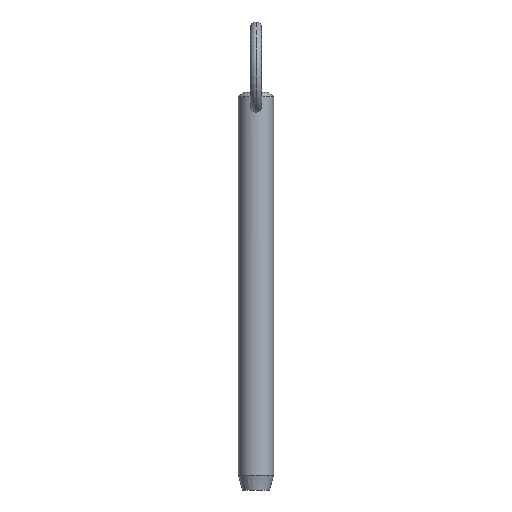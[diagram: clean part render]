
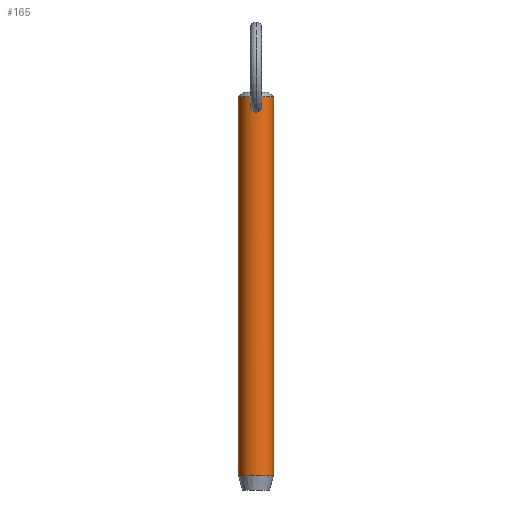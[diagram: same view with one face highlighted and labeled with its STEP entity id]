
A CAD part, front view. The second image highlights one B-rep face of the part: STEP entity #165.
In plain terms, the highlighted cylindrical face has radius 4.76 mm (diameter 9.52 mm), a partial arc.
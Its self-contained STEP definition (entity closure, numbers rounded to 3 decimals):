
#3 = CARTESIAN_POINT ( 'NONE',  ( -0.208, -4.757, 93.134 ) ) ;
#7 = CARTESIAN_POINT ( 'NONE',  ( 0.797, -4.697, 90.029 ) ) ;
#9 = DIRECTION ( 'NONE',  ( 0., 0., 1. ) ) ;
#11 = LINE ( 'NONE', #404, #274 ) ;
#18 = CARTESIAN_POINT ( 'NONE',  ( -4.76, 0., 93.95 ) ) ;
#24 = CARTESIAN_POINT ( 'NONE',  ( 0., 0., 93.95 ) ) ;
#32 = VERTEX_POINT ( 'NONE', #18 ) ;
#35 = CARTESIAN_POINT ( 'NONE',  ( 0.409, -4.743, 93.078 ) ) ;
#39 = CIRCLE ( 'NONE', #173, 4.76 ) ;
#40 = CARTESIAN_POINT ( 'NONE',  ( -1.247, -4.596, 90.452 ) ) ;
#43 = CARTESIAN_POINT ( 'NONE',  ( 0.97, -4.662, 90.15 ) ) ;
#44 = CARTESIAN_POINT ( 'NONE',  ( 1.478, -4.525, 91.652 ) ) ;
#47 = CARTESIAN_POINT ( 'NONE',  ( 1.385, -4.554, 90.732 ) ) ;
#69 = CARTESIAN_POINT ( 'NONE',  ( -1.039, -4.646, 90.226 ) ) ;
#70 = CARTESIAN_POINT ( 'NONE',  ( -0.793, -4.694, 90.039 ) ) ;
#73 = VECTOR ( 'NONE', #449, 1000. ) ;
#77 = CARTESIAN_POINT ( 'NONE',  ( 0.506, -4.734, 93.037 ) ) ;
#78 = CARTESIAN_POINT ( 'NONE',  ( -0.409, -4.743, 93.078 ) ) ;
#79 = CARTESIAN_POINT ( 'NONE',  ( 0., -4.76, 89.826 ) ) ;
#83 = CARTESIAN_POINT ( 'NONE',  ( 0.925, -4.67, 92.739 ) ) ;
#107 = CARTESIAN_POINT ( 'NONE',  ( -0.777, -4.7, 92.885 ) ) ;
#108 = CARTESIAN_POINT ( 'NONE',  ( -1.441, -4.537, 91.857 ) ) ;
#110 = B_SPLINE_CURVE_WITH_KNOTS ( 'NONE', 3,
 ( #279, #364, #200, #35, #77, #370, #115, #83, #295, #454, #451, #410, #249, #44, #124, #166, #337, #209, #289, #47, #341, #253, #414, #43, #7, #413, #374, #489, #218, #459 ),
 .UNSPECIFIED., .F., .F.,
 ( 4, 2, 2, 2, 2, 2, 2, 2, 2, 2, 2, 2, 2, 2, 4 ),
 ( 0.004, 0.005, 0.005, 0.005, 0.006, 0.006, 0.007, 0.007, 0.007, 0.007, 0.008, 0.008, 0.009, 0.009, 0.009 ),
 .UNSPECIFIED. ) ;
#115 = CARTESIAN_POINT ( 'NONE',  ( 0.77, -4.698, 92.875 ) ) ;
#116 = CARTESIAN_POINT ( 'NONE',  ( 0., -4.76, 93.148 ) ) ;
#117 = CIRCLE ( 'NONE', #512, 4.76 ) ;
#124 = CARTESIAN_POINT ( 'NONE',  ( 1.492, -4.52, 91.548 ) ) ;
#135 = VERTEX_POINT ( 'NONE', #350 ) ;
#154 = CARTESIAN_POINT ( 'NONE',  ( -0.416, -4.746, 89.867 ) ) ;
#159 = EDGE_CURVE ( 'NONE', #135, #372, #339, .T. ) ;
#161 = DIRECTION ( 'NONE',  ( 0., 0., -1. ) ) ;
#165 = ADVANCED_FACE ( 'NONE', ( #229, #175 ), #407, .T. ) ;
#166 = CARTESIAN_POINT ( 'NONE',  ( 1.503, -4.517, 91.34 ) ) ;
#168 = EDGE_CURVE ( 'NONE', #210, #231, #329, .T. ) ;
#172 = CARTESIAN_POINT ( 'NONE',  ( 0., 0., -8.7 ) ) ;
#173 = AXIS2_PLACEMENT_3D ( 'NONE', #24, #426, #464 ) ;
#175 = FACE_BOUND ( 'NONE', #486, .T. ) ;
#176 = ORIENTED_EDGE ( 'NONE', *, *, #252, .T. ) ;
#183 = EDGE_LOOP ( 'NONE', ( #247, #285, #434, #216 ) ) ;
#200 = CARTESIAN_POINT ( 'NONE',  ( 0.209, -4.756, 93.134 ) ) ;
#201 = EDGE_CURVE ( 'NONE', #32, #507, #11, .T. ) ;
#206 = DIRECTION ( 'NONE',  ( -1., 0., 0. ) ) ;
#209 = CARTESIAN_POINT ( 'NONE',  ( 1.473, -4.526, 91.031 ) ) ;
#210 = VERTEX_POINT ( 'NONE', #79 ) ;
#214 = DIRECTION ( 'NONE',  ( -1., 0., 0. ) ) ;
#216 = ORIENTED_EDGE ( 'NONE', *, *, #359, .T. ) ;
#217 = ORIENTED_EDGE ( 'NONE', *, *, #168, .T. ) ;
#218 = CARTESIAN_POINT ( 'NONE',  ( 0.105, -4.76, 89.826 ) ) ;
#229 = FACE_OUTER_BOUND ( 'NONE', #183, .T. ) ;
#231 = VERTEX_POINT ( 'NONE', #286 ) ;
#238 = CARTESIAN_POINT ( 'NONE',  ( -0.932, -4.67, 92.745 ) ) ;
#245 = CARTESIAN_POINT ( 'NONE',  ( 0., 0., 88.9 ) ) ;
#247 = ORIENTED_EDGE ( 'NONE', *, *, #159, .F. ) ;
#248 = CARTESIAN_POINT ( 'NONE',  ( -1.487, -4.522, 91.653 ) ) ;
#249 = CARTESIAN_POINT ( 'NONE',  ( 1.434, -4.539, 91.854 ) ) ;
#252 = EDGE_CURVE ( 'NONE', #231, #210, #110, .T. ) ;
#253 = CARTESIAN_POINT ( 'NONE',  ( 1.24, -4.596, 90.46 ) ) ;
#274 = VECTOR ( 'NONE', #288, 1000. ) ;
#275 = CARTESIAN_POINT ( 'NONE',  ( -4.76, 0., -8.7 ) ) ;
#279 = CARTESIAN_POINT ( 'NONE',  ( 0., -4.76, 93.148 ) ) ;
#285 = ORIENTED_EDGE ( 'NONE', *, *, #368, .T. ) ;
#286 = CARTESIAN_POINT ( 'NONE',  ( 0., -4.76, 93.148 ) ) ;
#288 = DIRECTION ( 'NONE',  ( 0., 0., -1. ) ) ;
#289 = CARTESIAN_POINT ( 'NONE',  ( 1.45, -4.534, 90.928 ) ) ;
#295 = CARTESIAN_POINT ( 'NONE',  ( 0.997, -4.655, 92.664 ) ) ;
#325 = CARTESIAN_POINT ( 'NONE',  ( -0.21, -4.76, 89.826 ) ) ;
#329 = B_SPLINE_CURVE_WITH_KNOTS ( 'NONE', 3,
 ( #520, #325, #154, #442, #70, #479, #69, #40, #333, #443, #480, #248, #108, #334, #409, #238, #107, #403, #78, #3, #447, #116 ),
 .UNSPECIFIED., .F., .F.,
 ( 4, 2, 2, 2, 2, 2, 2, 2, 2, 2, 4 ),
 ( 0.009, 0.01, 0.01, 0.011, 0.011, 0.012, 0.012, 0.013, 0.014, 0.014, 0.014 ),
 .UNSPECIFIED. ) ;
#333 = CARTESIAN_POINT ( 'NONE',  ( -1.353, -4.564, 90.635 ) ) ;
#334 = CARTESIAN_POINT ( 'NONE',  ( -1.292, -4.582, 92.245 ) ) ;
#337 = CARTESIAN_POINT ( 'NONE',  ( 1.499, -4.518, 91.237 ) ) ;
#339 = LINE ( 'NONE', #429, #73 ) ;
#341 = CARTESIAN_POINT ( 'NONE',  ( 1.344, -4.567, 90.639 ) ) ;
#342 = CARTESIAN_POINT ( 'NONE',  ( 4.76, 0., -8.7 ) ) ;
#350 = CARTESIAN_POINT ( 'NONE',  ( 4.76, 0., 93.95 ) ) ;
#359 = EDGE_CURVE ( 'NONE', #507, #372, #117, .T. ) ;
#364 = CARTESIAN_POINT ( 'NONE',  ( 0.104, -4.76, 93.148 ) ) ;
#368 = EDGE_CURVE ( 'NONE', #135, #32, #39, .T. ) ;
#370 = CARTESIAN_POINT ( 'NONE',  ( 0.687, -4.711, 92.935 ) ) ;
#372 = VERTEX_POINT ( 'NONE', #342 ) ;
#374 = CARTESIAN_POINT ( 'NONE',  ( 0.411, -4.743, 89.877 ) ) ;
#383 = AXIS2_PLACEMENT_3D ( 'NONE', #245, #161, #206 ) ;
#403 = CARTESIAN_POINT ( 'NONE',  ( -0.504, -4.734, 93.038 ) ) ;
#404 = CARTESIAN_POINT ( 'NONE',  ( -4.76, 0., 88.9 ) ) ;
#407 = CYLINDRICAL_SURFACE ( 'NONE', #383, 4.76 ) ;
#409 = CARTESIAN_POINT ( 'NONE',  ( -1.19, -4.611, 92.424 ) ) ;
#410 = CARTESIAN_POINT ( 'NONE',  ( 1.404, -4.548, 91.953 ) ) ;
#413 = CARTESIAN_POINT ( 'NONE',  ( 0.512, -4.733, 89.908 ) ) ;
#414 = CARTESIAN_POINT ( 'NONE',  ( 1.178, -4.613, 90.376 ) ) ;
#426 = DIRECTION ( 'NONE',  ( 0., 0., -1. ) ) ;
#429 = CARTESIAN_POINT ( 'NONE',  ( 4.76, 0., 88.9 ) ) ;
#434 = ORIENTED_EDGE ( 'NONE', *, *, #201, .T. ) ;
#442 = CARTESIAN_POINT ( 'NONE',  ( -0.703, -4.709, 89.989 ) ) ;
#443 = CARTESIAN_POINT ( 'NONE',  ( -1.483, -4.524, 91.026 ) ) ;
#447 = CARTESIAN_POINT ( 'NONE',  ( -0.103, -4.76, 93.148 ) ) ;
#449 = DIRECTION ( 'NONE',  ( 0., 0., -1. ) ) ;
#451 = CARTESIAN_POINT ( 'NONE',  ( 1.293, -4.582, 92.242 ) ) ;
#454 = CARTESIAN_POINT ( 'NONE',  ( 1.19, -4.611, 92.424 ) ) ;
#459 = CARTESIAN_POINT ( 'NONE',  ( 0., -4.76, 89.826 ) ) ;
#464 = DIRECTION ( 'NONE',  ( 1., 0., 0. ) ) ;
#479 = CARTESIAN_POINT ( 'NONE',  ( -0.961, -4.663, 90.157 ) ) ;
#480 = CARTESIAN_POINT ( 'NONE',  ( -1.508, -4.515, 91.237 ) ) ;
#486 = EDGE_LOOP ( 'NONE', ( #176, #217 ) ) ;
#489 = CARTESIAN_POINT ( 'NONE',  ( 0.208, -4.757, 89.836 ) ) ;
#507 = VERTEX_POINT ( 'NONE', #275 ) ;
#512 = AXIS2_PLACEMENT_3D ( 'NONE', #172, #9, #214 ) ;
#520 = CARTESIAN_POINT ( 'NONE',  ( 0., -4.76, 89.826 ) ) ;
